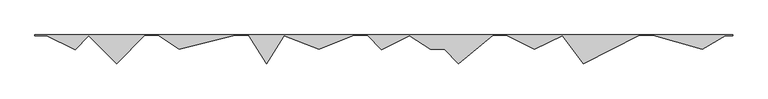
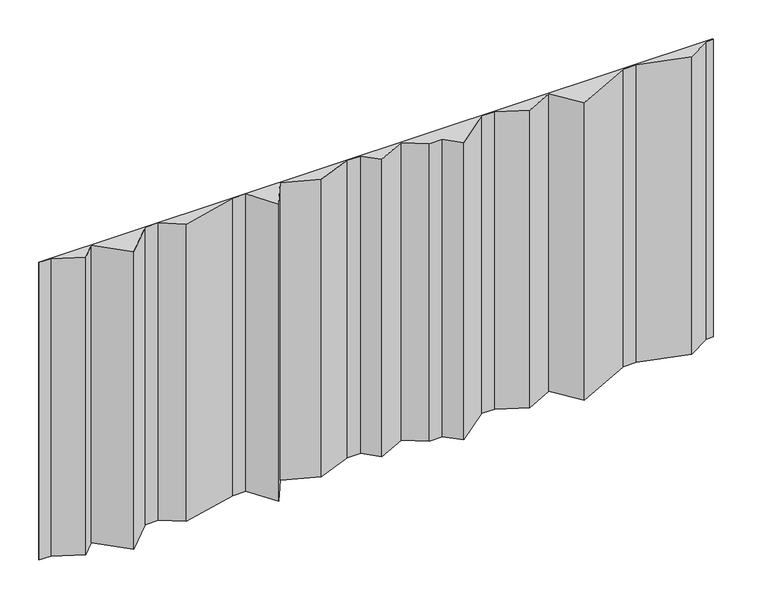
"""IFC4 building model written with IfcOpenShell, lengths in millimetres: plate geometry, ATELIERS 3S_GLACE PISSAILLAS 1000_VERTICAL : AZURO."""

from ifc_helpers import new_model, si_unit, origin, origin_with_axes, place, context, project, spatial, polyline, outline, extrude, source, transform, mapped, element, save


def plate_f866e6d2(model_context):
    return source(origin(), model_context, "Body", "SweptSolid", [
        extrude(outline(polyline([(-482.9527884, -0.864757), (-500.0000002, -0.864757), (-500.0000002, 0.0), (499.9999998, 0.0), (499.9999998, -1.0), (489.7755034, -1.0), (456.4025168, -20.8096981), (385.886243, -0.75), (366.1678949, -0.75), (285.7664033, -40.9507458), (255.7664033, -0.9507458), (215.9908439, -20.8385255), (175.813793, -0.75), (156.2580963, -0.75), (106.9399197, -41.009736), (86.6801838, -20.75), (66.7637622, -20.75), (36.9369619, -0.8654665), (-3.1572458, -20.9125704), (-23.3198162, -0.75), (-42.8647193, -0.75), (-93.0091561, -20.8077747), (-142.7054948, -0.9292392), (-168.0091561, -41.4150972), (-193.4248418, -0.75), (-212.9168268, -0.75), (-293.1491257, -20.8080747), (-323.2362378, -0.75), (-342.6984959, -0.75), (-383.0091561, -41.0606602), (-423.0037163, -1.0660999), (-442.4501561, -20.9135393), (-482.9527884, -0.864757)])), origin_with_axes(), (0.0, 0.0, 1.0), 466.5380782),
    ])


if __name__ == "__main__":
    model = new_model("IFC4")
    model_context = context("Model", 3, world=origin())
    ifc_project = project(units=[si_unit("LENGTHUNIT", "METRE", prefix="MILLI")], contexts=[model_context])
    site = spatial("IfcSite", under=ifc_project)
    building = spatial("IfcBuilding", under=site)
    placement = place(None, origin())
    plate_shape = plate_f866e6d2(model_context)
    element("IfcPlate", 1, ObjectType="ATELIERS 3S_GLACE PISSAILLAS 1000_VERTICAL : AZURO", at=placement, inside=building, context=model_context, shape_type="MappedRepresentation", body=[
        mapped(plate_shape, transform((0.0, 0.0, 0.0), x_axis=(1.0, 0.0, 0.0), y_axis=(0.0, 1.0, 0.0), z_axis=(0.0, 0.0, 1.0))),
    ])
    save(model, "model.ifc")
